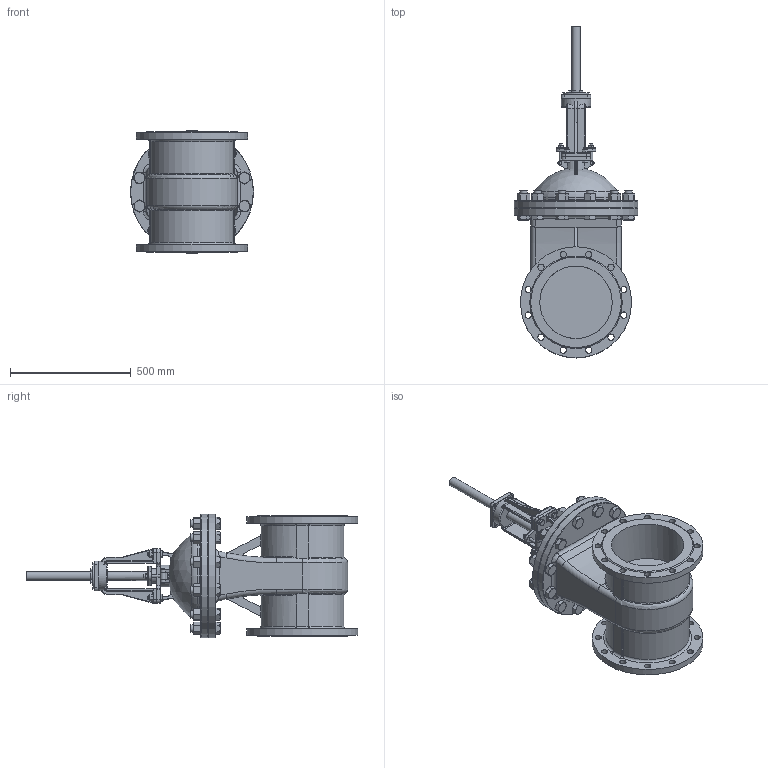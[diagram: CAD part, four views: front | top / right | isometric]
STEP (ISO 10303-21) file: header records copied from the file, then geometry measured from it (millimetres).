
FILE_DESCRIPTION(('STEP AP242'), '1');
FILE_NAME('GVWR2121M-2W-F-ÎÑÒ Çàäâèæêà êëèíîâàÿ ñ âûäâèæíûì øòîêîì Äó300 Ðó16', '', ('UNSPECIFIED'), ('UNSPECIFIED'), 'C3D Converter', 'C3D Toolkit', '');
FILE_SCHEMA(('AP242_MANAGED_MODEL_BASED_3D_ENGINEERING_MIM_LF { 1 0 10303 442 1 1 4 }'));
Length unit declared in the file: millimetre
Products named in the file (1): GVWR2121M-2W-F-ОСТ
Bounding box: 510 x 1375 x 510 mm (x, y, z)
Volume: 67416478.3 mm3; surface area: 2758611.6 mm2
Topology: 1 solids, 13 shells, 1280 faces, 3062 edges, 1869 vertices
Faces by surface type: plane 572, cone 288, cylinder 269, bspline 73, torus 69, sphere 5, revolution 4
Full cylindrical faces by diameter (mm): 10.5 x4, 12 x8, 15 x8, 22.5 x2, 24 x4, 26 x24, 30 x36, 37.5 x2, 41.85 x12, 45 x10, 60 x1, 65 x1, 66 x1, 108 x1, 120.592 x1, 300 x2, 360 x2, 460 x2, 510 x2
Entity records: 72335 total; most frequent: CARTESIAN_POINT 34451, ORIENTED_EDGE 5754, DIRECTION 5272, EDGE_CURVE 2877, AXIS2_PLACEMENT_3D 2114, VERTEX_POINT 1867, EDGE_LOOP 1652, FACE_BOUND 1423
